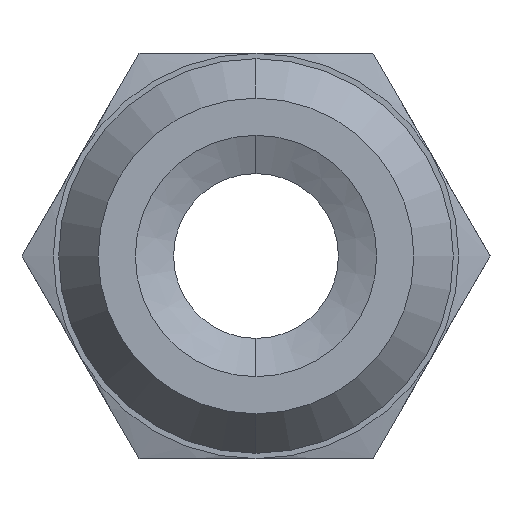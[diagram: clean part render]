
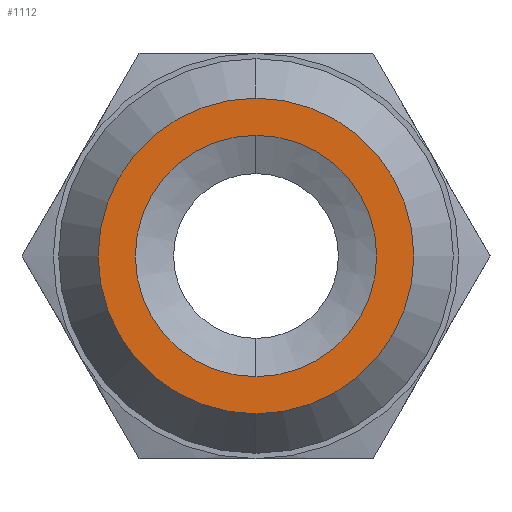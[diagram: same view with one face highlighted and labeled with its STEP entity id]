
A CAD part, left-side view. The second image highlights one B-rep face of the part: STEP entity #1112.
In plain terms, the highlighted planar face has unit normal (-1, 0, 0).
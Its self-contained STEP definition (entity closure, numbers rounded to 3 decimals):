
#31 = CARTESIAN_POINT ( 'NONE',  ( -14.2, 0., 6.8 ) ) ;
#140 = DIRECTION ( 'NONE',  ( 0., 0., 1. ) ) ;
#141 = DIRECTION ( 'NONE',  ( -1., 0., 0. ) ) ;
#142 = CARTESIAN_POINT ( 'NONE',  ( -14.2, 0., 0. ) ) ;
#143 = AXIS2_PLACEMENT_3D ( 'NONE', #142, #141, #140 ) ;
#144 = CIRCLE ( 'NONE', #143, 6.8 ) ;
#145 = CARTESIAN_POINT ( 'NONE',  ( -14.2, 0., -6.8 ) ) ;
#1078 = DIRECTION ( 'NONE',  ( 0., 0., 1. ) ) ;
#1079 = DIRECTION ( 'NONE',  ( -1., 0., 0. ) ) ;
#1080 = CARTESIAN_POINT ( 'NONE',  ( -14.2, 0., 0. ) ) ;
#1081 = AXIS2_PLACEMENT_3D ( 'NONE', #1080, #1079, #1078 ) ;
#1082 = DIRECTION ( 'NONE',  ( 0., 0., 1. ) ) ;
#1083 = DIRECTION ( 'NONE',  ( -1., 0., 0. ) ) ;
#1084 = AXIS2_PLACEMENT_3D ( 'NONE', #1086, #1083, #1082 ) ;
#1085 = CIRCLE ( 'NONE', #1081, 6.8 ) ;
#1086 = CARTESIAN_POINT ( 'NONE',  ( -14.2, 0., 0. ) ) ;
#1087 = PLANE ( 'NONE',  #1084 ) ;
#1088 = FACE_OUTER_BOUND ( 'NONE', #1115, .T. ) ;
#1089 = FACE_BOUND ( 'NONE', #1214, .T. ) ;
#1090 = DIRECTION ( 'NONE',  ( 0., 0., 1. ) ) ;
#1091 = DIRECTION ( 'NONE',  ( -1., 0., 0. ) ) ;
#1092 = CARTESIAN_POINT ( 'NONE',  ( -14.2, 0., 0. ) ) ;
#1093 = AXIS2_PLACEMENT_3D ( 'NONE', #1092, #1091, #1090 ) ;
#1097 = CIRCLE ( 'NONE', #1093, 5.2 ) ;
#1111 = EDGE_CURVE ( 'NONE', #1163, #1164, #1097, .T. ) ;
#1112 = ADVANCED_FACE ( 'NONE', ( #1089, #1088 ), #1087, .T. ) ;
#1113 = ORIENTED_EDGE ( 'NONE', *, *, #1111, .F. ) ;
#1114 = ORIENTED_EDGE ( 'NONE', *, *, #1162, .F. ) ;
#1115 = EDGE_LOOP ( 'NONE', ( #1116, #1118 ) ) ;
#1116 = ORIENTED_EDGE ( 'NONE', *, *, #1117, .T. ) ;
#1117 = EDGE_CURVE ( 'NONE', #1177, #1250, #1085, .T. ) ;
#1118 = ORIENTED_EDGE ( 'NONE', *, *, #1253, .T. ) ;
#1162 = EDGE_CURVE ( 'NONE', #1164, #1163, #1192, .T. ) ;
#1163 = VERTEX_POINT ( 'NONE', #1189 ) ;
#1164 = VERTEX_POINT ( 'NONE', #1188 ) ;
#1177 = VERTEX_POINT ( 'NONE', #31 ) ;
#1188 = CARTESIAN_POINT ( 'NONE',  ( -14.2, 0., -5.2 ) ) ;
#1189 = CARTESIAN_POINT ( 'NONE',  ( -14.2, 0., 5.2 ) ) ;
#1190 = DIRECTION ( 'NONE',  ( 0., 0., 1. ) ) ;
#1191 = AXIS2_PLACEMENT_3D ( 'NONE', #1205, #1208, #1190 ) ;
#1192 = CIRCLE ( 'NONE', #1191, 5.2 ) ;
#1205 = CARTESIAN_POINT ( 'NONE',  ( -14.2, 0., 0. ) ) ;
#1208 = DIRECTION ( 'NONE',  ( -1., 0., 0. ) ) ;
#1214 = EDGE_LOOP ( 'NONE', ( #1113, #1114 ) ) ;
#1250 = VERTEX_POINT ( 'NONE', #145 ) ;
#1253 = EDGE_CURVE ( 'NONE', #1250, #1177, #144, .T. ) ;
